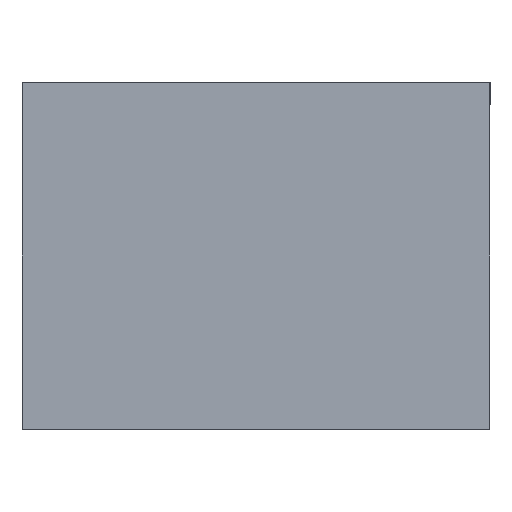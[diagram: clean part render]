
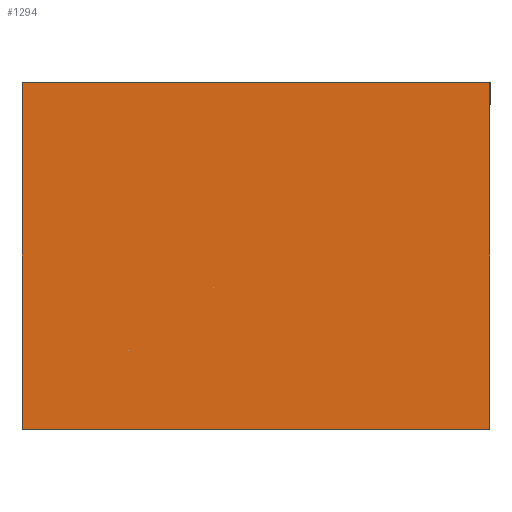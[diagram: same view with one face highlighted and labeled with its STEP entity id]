
A CAD part, front view. The second image highlights one B-rep face of the part: STEP entity #1294.
In plain terms, the highlighted planar face has unit normal (0, -1, 0).
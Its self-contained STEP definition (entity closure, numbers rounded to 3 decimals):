
#14 = DIRECTION ( 'NONE',  ( -1., 0., 0. ) ) ;
#162 = EDGE_LOOP ( 'NONE', ( #2546, #1678, #1468, #2008 ) ) ;
#217 = VERTEX_POINT ( 'NONE', #817 ) ;
#238 = EDGE_CURVE ( 'NONE', #1372, #1398, #1043, .T. ) ;
#363 = LINE ( 'NONE', #516, #2425 ) ;
#364 = FACE_OUTER_BOUND ( 'NONE', #162, .T. ) ;
#458 = VECTOR ( 'NONE', #527, 1000. ) ;
#502 = CARTESIAN_POINT ( 'NONE',  ( -42.5, 0., -31.5 ) ) ;
#506 = CARTESIAN_POINT ( 'NONE',  ( -42.5, 0., -31.5 ) ) ;
#516 = CARTESIAN_POINT ( 'NONE',  ( 42.5, 0., -31.5 ) ) ;
#527 = DIRECTION ( 'NONE',  ( 0., 0., 1. ) ) ;
#575 = DIRECTION ( 'NONE',  ( 0., 1., 0. ) ) ;
#606 = EDGE_CURVE ( 'NONE', #2488, #217, #363, .T. ) ;
#629 = VECTOR ( 'NONE', #14, 1000. ) ;
#812 = AXIS2_PLACEMENT_3D ( 'NONE', #1001, #575, #2039 ) ;
#817 = CARTESIAN_POINT ( 'NONE',  ( 42.5, 0., -31.5 ) ) ;
#880 = EDGE_CURVE ( 'NONE', #217, #1372, #1267, .T. ) ;
#1001 = CARTESIAN_POINT ( 'NONE',  ( 0., 0., 0. ) ) ;
#1043 = LINE ( 'NONE', #502, #458 ) ;
#1223 = CARTESIAN_POINT ( 'NONE',  ( -42.5, 0., 31.5 ) ) ;
#1267 = LINE ( 'NONE', #506, #629 ) ;
#1294 = ADVANCED_FACE ( 'NONE', ( #364 ), #2616, .F. ) ;
#1372 = VERTEX_POINT ( 'NONE', #1648 ) ;
#1398 = VERTEX_POINT ( 'NONE', #2246 ) ;
#1468 = ORIENTED_EDGE ( 'NONE', *, *, #238, .F. ) ;
#1648 = CARTESIAN_POINT ( 'NONE',  ( -42.5, 0., -31.5 ) ) ;
#1656 = VECTOR ( 'NONE', #1836, 1000. ) ;
#1678 = ORIENTED_EDGE ( 'NONE', *, *, #1975, .F. ) ;
#1801 = DIRECTION ( 'NONE',  ( 0., 0., -1. ) ) ;
#1836 = DIRECTION ( 'NONE',  ( 1., 0., 0. ) ) ;
#1939 = CARTESIAN_POINT ( 'NONE',  ( 42.5, 0., 31.5 ) ) ;
#1975 = EDGE_CURVE ( 'NONE', #1398, #2488, #2186, .T. ) ;
#2008 = ORIENTED_EDGE ( 'NONE', *, *, #880, .F. ) ;
#2039 = DIRECTION ( 'NONE',  ( 0., 0., 1. ) ) ;
#2186 = LINE ( 'NONE', #1223, #1656 ) ;
#2246 = CARTESIAN_POINT ( 'NONE',  ( -42.5, 0., 31.5 ) ) ;
#2425 = VECTOR ( 'NONE', #1801, 1000. ) ;
#2488 = VERTEX_POINT ( 'NONE', #1939 ) ;
#2546 = ORIENTED_EDGE ( 'NONE', *, *, #606, .F. ) ;
#2616 = PLANE ( 'NONE',  #812 ) ;
